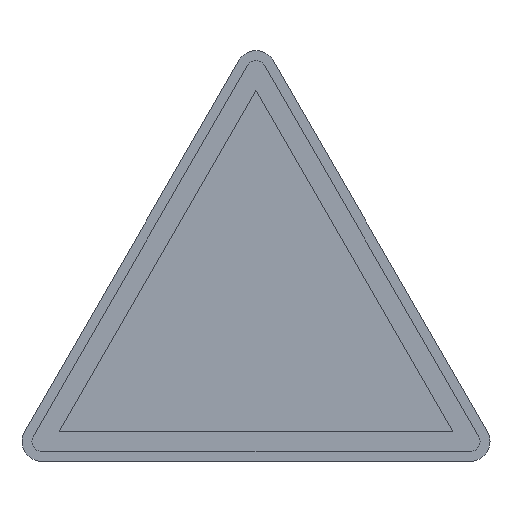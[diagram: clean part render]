
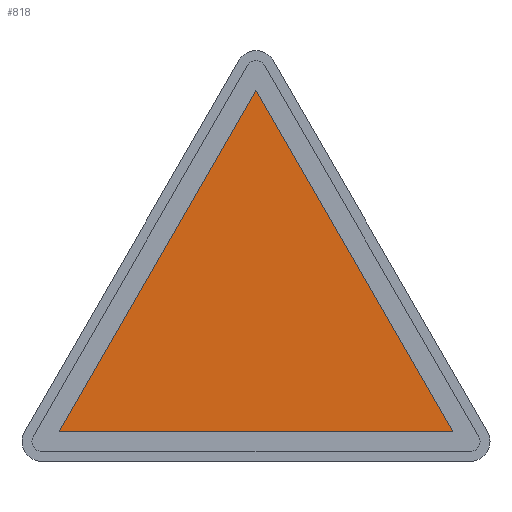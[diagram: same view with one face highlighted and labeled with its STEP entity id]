
A CAD part, top view. The second image highlights one B-rep face of the part: STEP entity #818.
In plain terms, the highlighted planar face has unit normal (0, 0, 1).
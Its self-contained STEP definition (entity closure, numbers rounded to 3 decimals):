
#8 = ORIENTED_EDGE ( 'NONE', *, *, #790, .T. ) ;
#20 = DIRECTION ( 'NONE',  ( 1., 0., 0. ) ) ;
#30 = CARTESIAN_POINT ( 'NONE',  ( -19.804, 3., 0.2 ) ) ;
#61 = VECTOR ( 'NONE', #224, 1000. ) ;
#101 = LINE ( 'NONE', #170, #255 ) ;
#156 = CARTESIAN_POINT ( 'NONE',  ( 0., 39.301, 0.2 ) ) ;
#159 = EDGE_CURVE ( 'NONE', #724, #312, #101, .T. ) ;
#169 = ORIENTED_EDGE ( 'NONE', *, *, #356, .T. ) ;
#170 = CARTESIAN_POINT ( 'NONE',  ( 0., 37.301, 0.2 ) ) ;
#203 = LINE ( 'NONE', #30, #61 ) ;
#224 = DIRECTION ( 'NONE',  ( 1., 0., 0. ) ) ;
#255 = VECTOR ( 'NONE', #623, 1000. ) ;
#312 = VERTEX_POINT ( 'NONE', #519 ) ;
#313 = AXIS2_PLACEMENT_3D ( 'NONE', #156, #749, #20 ) ;
#352 = ORIENTED_EDGE ( 'NONE', *, *, #159, .T. ) ;
#356 = EDGE_CURVE ( 'NONE', #312, #605, #203, .T. ) ;
#465 = PLANE ( 'NONE',  #313 ) ;
#487 = CARTESIAN_POINT ( 'NONE',  ( 19.804, 3., 0.2 ) ) ;
#519 = CARTESIAN_POINT ( 'NONE',  ( -19.804, 3., 0.2 ) ) ;
#533 = FACE_OUTER_BOUND ( 'NONE', #672, .T. ) ;
#605 = VERTEX_POINT ( 'NONE', #710 ) ;
#607 = LINE ( 'NONE', #487, #760 ) ;
#623 = DIRECTION ( 'NONE',  ( -0.5, -0.866, 0. ) ) ;
#660 = DIRECTION ( 'NONE',  ( -0.5, 0.866, 0. ) ) ;
#672 = EDGE_LOOP ( 'NONE', ( #352, #169, #8 ) ) ;
#676 = CARTESIAN_POINT ( 'NONE',  ( 0., 37.301, 0.2 ) ) ;
#710 = CARTESIAN_POINT ( 'NONE',  ( 19.804, 3., 0.2 ) ) ;
#724 = VERTEX_POINT ( 'NONE', #676 ) ;
#749 = DIRECTION ( 'NONE',  ( 0., 0., 1. ) ) ;
#760 = VECTOR ( 'NONE', #660, 1000. ) ;
#790 = EDGE_CURVE ( 'NONE', #605, #724, #607, .T. ) ;
#818 = ADVANCED_FACE ( 'NONE', ( #533 ), #465, .T. ) ;
